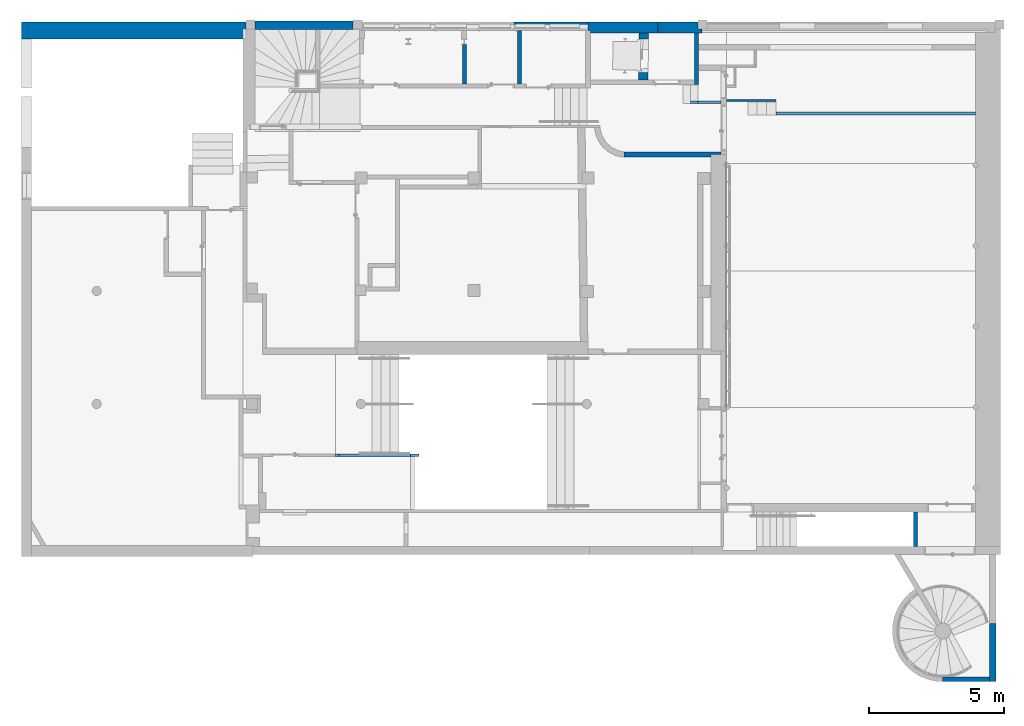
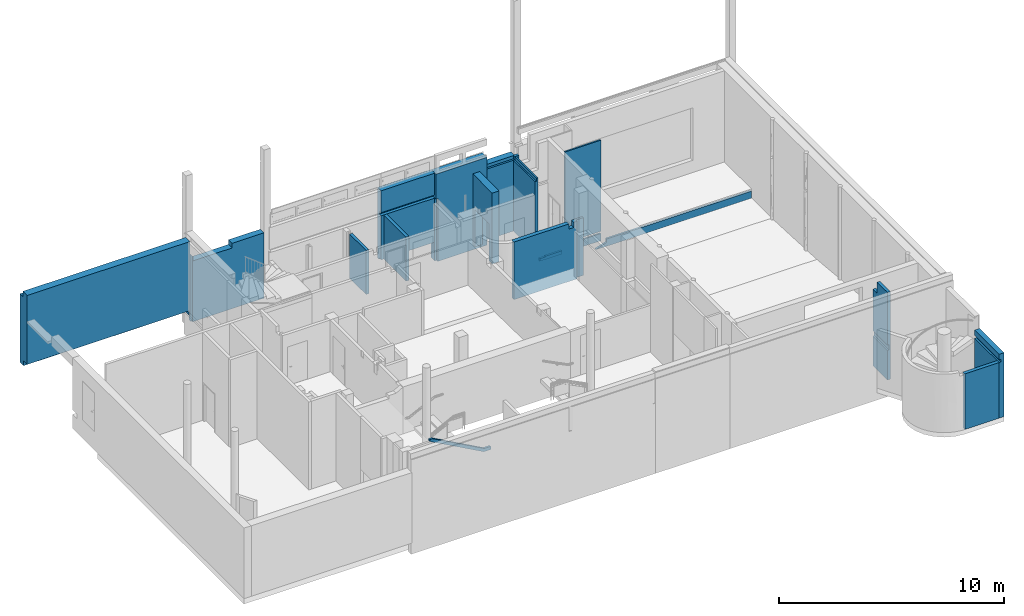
# One storey, part 7 of 39: 16 walls, 1 stair, 4 openings.
"""IFC4 building model written with IfcOpenShell, lengths in metres."""

import ifcopenshell
import ifcopenshell.guid

model = None  # the IFC model being written
_history = None  # IfcOwnerHistory: only IFC2X3 demands one
_inside = {}  # id of a spatial element -> (the spatial element, [elements in it])
_under = {}  # id of a project, library or spatial element -> (it, [spatial elements below it])
_declared = {}  # id of a project -> (the project, [libraries it declares])
_typed = {}  # id of a type object -> (the type object, [elements of that type])
_made_of = {}  # id of a material, layer set ... -> (it, [elements and type objects made of it])


def new_model(schema):
    """Start an empty IFC model of exactly this schema.

    Asked for "IFC4X3", IfcOpenShell would pick the latest addendum, in which some entities
    have other attributes; the version numbers below select the first issue.
    IFC2X3 requires an IfcOwnerHistory on every rooted entity: one is made here for all.
    """
    global model, _history
    if schema == "IFC4X3":
        model = ifcopenshell.file(schema_version=(4, 3, 0, 0))
    else:
        model = ifcopenshell.file(schema=schema)
    _inside.clear()
    _under.clear()
    _declared.clear()
    _typed.clear()
    _made_of.clear()
    _history = None
    if model.schema == "IFC2X3":
        org = make("IfcOrganization", Name="unknown")
        user = make(
            "IfcPersonAndOrganization",
            ThePerson=make("IfcPerson", FamilyName="unknown"),
            TheOrganization=org,
        )
        app = make(
            "IfcApplication",
            ApplicationDeveloper=org,
            Version="unknown",
            ApplicationFullName="unknown",
            ApplicationIdentifier="unknown",
        )
        _history = make(
            "IfcOwnerHistory",
            OwningUser=user,
            OwningApplication=app,
            ChangeAction="ADDED",
            CreationDate=0,
        )
    return model


def make(cls, **values):
    """One entity of the class cls with the attributes given. An attribute that is None is left unset."""
    return model.create_entity(
        cls, **{name: value for name, value in values.items() if value is not None}
    )


def entity(cls, *values):
    """Any entity or typed value of the class cls, its attributes in the order of the schema. None: left unset."""
    e = model.create_entity(cls)
    for i, value in enumerate(values):
        if value is not None:
            e[i] = value
    return e


def rooted(cls, **values):
    """An entity with a GlobalId (a new one), such as an element, a storey or a relation."""
    return make(cls, GlobalId=ifcopenshell.guid.new(), OwnerHistory=_history, **values)


def si_unit(unit_type, name, prefix=None):
    """IfcSIUnit, for example si_unit("LENGTHUNIT", "METRE", prefix="MILLI")."""
    return make("IfcSIUnit", UnitType=unit_type, Prefix=prefix, Name=name)


def converted_unit(unit_type, name, factor, base, dimensions=None, offset=None):
    """IfcConversionBasedUnit, such as the inch: factor (a typed value) times the base unit."""
    return make(
        "IfcConversionBasedUnit"
        if offset is None
        else "IfcConversionBasedUnitWithOffset",
        ConversionOffset=offset,
        Dimensions=None
        if dimensions is None
        else entity("IfcDimensionalExponents", *dimensions),
        UnitType=unit_type,
        Name=name,
        ConversionFactor=make(
            "IfcMeasureWithUnit", ValueComponent=factor, UnitComponent=base
        ),
    )


def derived_unit(unit_type, elements):
    """IfcDerivedUnit: a product of units, each with its exponent."""
    return make(
        "IfcDerivedUnit",
        Elements=[
            make("IfcDerivedUnitElement", Unit=unit, Exponent=power)
            for unit, power in elements
        ],
        UnitType=unit_type,
    )


def assignment(units):
    """IfcUnitAssignment: the units of a project."""
    return None if units is None else make("IfcUnitAssignment", Units=units)


def point(xyz):
    """IfcCartesianPoint."""
    return None if xyz is None else make("IfcCartesianPoint", Coordinates=xyz)


def direction(xyz):
    """IfcDirection."""
    return None if xyz is None else make("IfcDirection", DirectionRatios=xyz)


def frame(location, z_axis=None, x_axis=None):
    """IfcAxis2Placement3D, a coordinate frame: its origin and axes. An axis left out is left unset."""
    return make(
        "IfcAxis2Placement3D",
        Location=point(location),
        Axis=direction(z_axis),
        RefDirection=direction(x_axis),
    )


def origin():
    """The frame at (0, 0, 0) with its axes left unset."""
    return frame((0.0, 0.0, 0.0))


def place(relative_to, where):
    """IfcLocalPlacement: puts the frame where relative to a parent placement (None: the world)."""
    return make(
        "IfcLocalPlacement", PlacementRelTo=relative_to, RelativePlacement=where
    )


def context(
    kind, dimensions, precision=None, world=None, true_north=None, identifier=None
):
    """IfcGeometricRepresentationContext, for example the 3D "Model" context."""
    return make(
        "IfcGeometricRepresentationContext",
        ContextIdentifier=identifier,
        ContextType=kind,
        CoordinateSpaceDimension=dimensions,
        Precision=precision,
        WorldCoordinateSystem=world,
        TrueNorth=true_north,
    )


def subcontext(parent, identifier, kind, view, scale=None):
    """IfcGeometricRepresentationSubContext, for example "Body" below "Model"."""
    return make(
        "IfcGeometricRepresentationSubContext",
        ContextIdentifier=identifier,
        ContextType=kind,
        ParentContext=parent,
        TargetScale=scale,
        TargetView=view,
    )


def project(units=None, contexts=None):
    """IfcProject with its units and contexts."""
    return rooted(
        "IfcProject",
        Name="project",
        RepresentationContexts=contexts,
        UnitsInContext=assignment(units),
    )


def spatial(cls, under=None, at=None, **own):
    """A site, building, storey or space (cls), placed at a placement, below another one or the project."""
    s = rooted(cls, ObjectPlacement=at, **own)
    if under is not None:
        _under.setdefault(under.id(), (under, []))[1].append(s)
    return s


def point_list(points):
    """IfcCartesianPointList2D or 3D."""
    cls = (
        "IfcCartesianPointList2D" if len(points[0]) == 2 else "IfcCartesianPointList3D"
    )
    return make(cls, CoordList=points)


def indexed_curve(points, segments=None, self_intersect=None):
    """IfcIndexedPolyCurve: lines and arcs through numbered points (the first is 1)."""
    return make(
        "IfcIndexedPolyCurve",
        Points=point_list(points),
        Segments=segments,
        SelfIntersect=self_intersect,
    )


def outline(outer, holes=None, kind="AREA"):
    """IfcArbitraryClosedProfileDef: a profile drawn as a closed curve; with holes, ...WithVoids."""
    if holes is None:
        return make("IfcArbitraryClosedProfileDef", ProfileType=kind, OuterCurve=outer)
    return make(
        "IfcArbitraryProfileDefWithVoids",
        ProfileType=kind,
        OuterCurve=outer,
        InnerCurves=holes,
    )


def extrude(swept, where, along, depth):
    """IfcExtrudedAreaSolid: the profile swept, set in the frame where, extruded along a direction by depth."""
    return make(
        "IfcExtrudedAreaSolid",
        SweptArea=swept,
        Position=where,
        ExtrudedDirection=direction(along),
        Depth=depth,
    )


def polygons(points, faces, closed=None, point_numbers=None):
    """IfcPolygonalFaceSet: a face is its outer loop, then its inner loops; points numbered from 1."""
    made = []
    for loops in faces:
        if len(loops) == 1:
            made.append(make("IfcIndexedPolygonalFace", CoordIndex=loops[0]))
        else:
            made.append(
                make(
                    "IfcIndexedPolygonalFaceWithVoids",
                    CoordIndex=loops[0],
                    InnerCoordIndices=loops[1:],
                )
            )
    return make(
        "IfcPolygonalFaceSet",
        Coordinates=point_list(points),
        Closed=closed,
        Faces=made,
        PnIndex=point_numbers,
    )


def shape(context_of_items, identifier, shape_type, items):
    """IfcShapeRepresentation: the items that make up one representation, for example the "Body"."""
    return make(
        "IfcShapeRepresentation",
        ContextOfItems=context_of_items,
        RepresentationIdentifier=identifier,
        RepresentationType=shape_type,
        Items=items,
    )


def material(Name=None, Category=None):
    """IfcMaterial."""
    return make("IfcMaterial", Name=Name, Category=Category)


def layer(
    of_material, thickness, ventilated=None, Name=None, Category=None, Priority=None
):
    """IfcMaterialLayer: one layer of a wall or slab, of a material (None: an air gap)."""
    return make(
        "IfcMaterialLayer",
        Material=of_material,
        LayerThickness=thickness,
        IsVentilated=ventilated,
        Name=Name,
        Category=Category,
        Priority=Priority,
    )


def layer_set(layers, Name=None):
    """IfcMaterialLayerSet."""
    return make("IfcMaterialLayerSet", MaterialLayers=layers, LayerSetName=Name)


def made_of(thing, what):
    """Note that an element or type object is made of a material, layer set ...; save() writes the relation."""
    if what is not None:
        _made_of.setdefault(what.id(), (what, []))[1].append(thing)
    return thing


def type_object(cls, material=None, **own):
    """A type object (cls), such as IfcWallType, which elements share."""
    return made_of(rooted(cls, **own), material)


def element(
    cls,
    number,
    at=None,
    inside=None,
    cuts=None,
    type_object=None,
    material=None,
    context=None,
    identifier="Body",
    shape_type=None,
    held_by="IfcProductDefinitionShape",
    body=None,
    shapes=None,
    **own,
):
    """One element of the class cls, such as IfcWall. Its Tag is "e" and its number.

    at: its placement. inside: the storey or other place that contains it. cuts: it is an
    opening in that element (IfcRelVoidsElement). A single representation is given by context,
    identifier, shape_type and body (its items); several are given by shapes. held_by: the class
    of the entity that holds the representations. save() writes the other relations.
    """
    e = rooted(cls, Tag="e%d" % number, ObjectPlacement=at, **own)
    if body is not None:
        shapes = [shape(context, identifier, shape_type, body)]
    if shapes is not None:
        e.Representation = make(held_by, Representations=shapes)
    if inside is not None:
        _inside.setdefault(inside.id(), (inside, []))[1].append(e)
    if cuts is not None:
        rooted(
            "IfcRelVoidsElement", RelatingBuildingElement=cuts, RelatedOpeningElement=e
        )
    if type_object is not None:
        _typed.setdefault(type_object.id(), (type_object, []))[1].append(e)
    return made_of(e, material)


def aggregate(whole, parts):
    """IfcRelAggregates: a whole, such as a stair, and the parts it consists of."""
    return rooted("IfcRelAggregates", RelatingObject=whole, RelatedObjects=parts)


def save(model, path):
    """Write the relations noted so far, then the file.

    IfcRelAggregates (storeys below a building ...), IfcRelContainedInSpatialStructure (elements
    in a storey), IfcRelDefinesByType, IfcRelAssociatesMaterial and IfcRelDeclares: one each for
    every whole, place, type object, material and project.
    """
    for whole, parts in _under.values():
        aggregate(whole, parts)
    for where, things in _inside.values():
        rooted(
            "IfcRelContainedInSpatialStructure",
            RelatedElements=things,
            RelatingStructure=where,
        )
    for kind, things in _typed.values():
        rooted("IfcRelDefinesByType", RelatedObjects=things, RelatingType=kind)
    for what, things in _made_of.values():
        rooted("IfcRelAssociatesMaterial", RelatedObjects=things, RelatingMaterial=what)
    for by, libraries in _declared.values():
        rooted("IfcRelDeclares", RelatingContext=by, RelatedDefinitions=libraries)
    model.write(path)


model = new_model("IFC4")

# Units and contexts
model_context = context("Model", 3, precision=1e-05, world=origin(), true_north=direction((6.12303176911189e-17, 1.0)))
body_context = subcontext(model_context, "Body", "Model", "MODEL_VIEW")
ifc_project = project(units=[si_unit("LENGTHUNIT", "METRE"), si_unit("AREAUNIT", "SQUARE_METRE"), si_unit("VOLUMEUNIT", "CUBIC_METRE"), converted_unit("PLANEANGLEUNIT", "DEGREE", entity("IfcRatioMeasure", 0.0174532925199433), si_unit("PLANEANGLEUNIT", "RADIAN"), dimensions=[0, 0, 0, 0, 0, 0, 0]), si_unit("MASSUNIT", "GRAM", prefix="KILO"), derived_unit("MASSDENSITYUNIT", [(si_unit("MASSUNIT", "GRAM", prefix="KILO"), 1), (si_unit("LENGTHUNIT", "METRE"), -3)]), derived_unit("MOMENTOFINERTIAUNIT", [(si_unit("LENGTHUNIT", "METRE"), 4)]), si_unit("TIMEUNIT", "SECOND"), si_unit("FREQUENCYUNIT", "HERTZ"), si_unit("THERMODYNAMICTEMPERATUREUNIT", "DEGREE_CELSIUS"), derived_unit("THERMALTRANSMITTANCEUNIT", [(si_unit("MASSUNIT", "GRAM", prefix="KILO"), 1), (si_unit("THERMODYNAMICTEMPERATUREUNIT", "KELVIN"), -1), (si_unit("TIMEUNIT", "SECOND"), -3)]), derived_unit("VOLUMETRICFLOWRATEUNIT", [(si_unit("LENGTHUNIT", "METRE"), 3), (si_unit("TIMEUNIT", "SECOND"), -1)]), si_unit("ELECTRICCURRENTUNIT", "AMPERE"), si_unit("ELECTRICVOLTAGEUNIT", "VOLT"), si_unit("POWERUNIT", "WATT"), si_unit("FORCEUNIT", "NEWTON", prefix="KILO"), si_unit("ILLUMINANCEUNIT", "LUX"), si_unit("LUMINOUSFLUXUNIT", "LUMEN"), si_unit("LUMINOUSINTENSITYUNIT", "CANDELA"), derived_unit("USERDEFINED", [(si_unit("MASSUNIT", "GRAM", prefix="KILO"), -1), (si_unit("LENGTHUNIT", "METRE"), -2), (si_unit("TIMEUNIT", "SECOND"), 3), (si_unit("LUMINOUSFLUXUNIT", "LUMEN"), 1)]), derived_unit("LINEARVELOCITYUNIT", [(si_unit("LENGTHUNIT", "METRE"), 1), (si_unit("TIMEUNIT", "SECOND"), -1)]), si_unit("PRESSUREUNIT", "PASCAL"), derived_unit("USERDEFINED", [(si_unit("LENGTHUNIT", "METRE"), -2), (si_unit("MASSUNIT", "GRAM", prefix="KILO"), 1), (si_unit("TIMEUNIT", "SECOND"), -2)]), derived_unit("LINEARFORCEUNIT", [(si_unit("MASSUNIT", "GRAM", prefix="KILO"), 1), (si_unit("LENGTHUNIT", "METRE"), 1), (si_unit("TIMEUNIT", "SECOND"), -2), (si_unit("LENGTHUNIT", "METRE"), -1)]), derived_unit("PLANARFORCEUNIT", [(si_unit("MASSUNIT", "GRAM", prefix="KILO"), 1), (si_unit("LENGTHUNIT", "METRE"), 1), (si_unit("TIMEUNIT", "SECOND"), -2), (si_unit("LENGTHUNIT", "METRE"), -2)])], contexts=[model_context])

# Site, building, storey
site_placement = place(None, origin())
site = spatial("IfcSite", under=ifc_project, at=site_placement, Name="Default", CompositionType="ELEMENT")
building_placement = place(site_placement, origin())
building = spatial("IfcBuilding", under=site, at=building_placement, Name="HOTEL CONSULAIRE BOULOGNE SUR MER", CompositionType="ELEMENT")
storey_placement = place(building_placement, frame((0.0, 0.0, -5.02343668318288)))
storey = spatial("IfcBuildingStorey", under=building, at=storey_placement, Name="SS3", CompositionType="ELEMENT", Elevation=-5.02343668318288)

# Wall, opening
ifc_material_1 = material(Name="Mur par défaut", Category="Divers")
ifc_layer_1 = layer(ifc_material_1, 0.1, Name="Mur par défaut", Category="Divers")
ifc_layer_set_1 = layer_set([ifc_layer_1], Name="Mur de base:Générique - Int. 100 mm")
wall_type_1 = type_object("IfcWallType", Name="Mur de base:Générique - Int. 100 mm", PredefinedType="NOTDEFINED", material=ifc_layer_set_1)
wall_1_placement = place(storey_placement, frame((12.1592268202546, -12.8002768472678, -0.649999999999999), z_axis=(0.0, 0.0, 1.0), x_axis=(-1.0, 0.0, 0.0)))
wall_1 = element("IfcWall", 1, at=wall_1_placement, inside=storey, type_object=wall_type_1, material=ifc_layer_set_1, Name="Mur de base:Générique - Int. 100 mm", ObjectType="Mur de base:Générique - Int. 100 mm", PredefinedType="NOTDEFINED", context=body_context, shape_type="Tessellation", body=[
    polygons([(5.35888846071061e-17, -0.0500000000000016, 0.0), (1.13488343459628, -0.0499999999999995, 0.0), (1.13488343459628, -0.0499999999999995, 0.143333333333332), (0.855583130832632, -0.0499999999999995, 0.143333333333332), (0.855583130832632, -0.0499999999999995, 0.178999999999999), (5.35888846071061e-17, -0.0500000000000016, 0.178999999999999), (-4.72550068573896e-16, 0.0499999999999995, 0.0), (-4.72550068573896e-16, 0.0499999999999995, 0.178999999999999), (0.855583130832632, 0.0500000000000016, 0.178999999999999), (0.855583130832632, 0.0500000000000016, 0.143333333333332), (1.13488343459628, 0.0500000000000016, 0.143333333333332), (1.13488343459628, 0.0500000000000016, 0.0)], [[[6, 1, 2, 3, 4, 5]], [[10, 11, 12, 7, 8, 9]], [[7, 1, 6, 8]], [[2, 1, 7, 12]], [[3, 2, 12, 11]], [[5, 4, 10, 9]], [[6, 5, 9, 8]], [[4, 3, 11, 10]]], closed=True),
])
opening_1_placement = place(wall_1_placement, origin())
element("IfcOpeningElement", 2, at=opening_1_placement, cuts=wall_1, Name="Mur de base:Générique - Int. 100 mm", ObjectType="Opening", PredefinedType="OPENING", context=body_context, shape_type="SweptSolid", body=[
    extrude(outline(indexed_curve([(-0.0178333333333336, -0.139650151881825), (0.0178333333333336, -0.139650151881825), (0.0178333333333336, 0.139650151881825), (-0.0178333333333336, 0.139650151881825), (-0.0178333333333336, -0.139650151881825)], self_intersect=False)), frame((0.995233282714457, 0.0500000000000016, 0.161166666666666), z_axis=(0.0, -1.0, 0.0), x_axis=(0.0, 0.0, 1.0)), (0.0, 0.0, 1.0), 0.1),
])

wall_2_placement = place(storey_placement, frame((13.6626382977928, -13.2203682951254, -0.69091907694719)))
wall_2 = element("IfcWall", 3, at=wall_2_placement, inside=storey, type_object=wall_type_1, material=ifc_layer_set_1, Name="Mur de base:Générique - Int. 100 mm", ObjectType="Mur de base:Générique - Int. 100 mm", PredefinedType="NOTDEFINED", context=body_context, shape_type="Tessellation", body=[
    polygons([(7.95742217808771, -0.0499999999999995, 0.390919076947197), (0.538691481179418, -0.0499999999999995, 0.390919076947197), (0.538691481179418, -0.0499999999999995, 0.208487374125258), (1.54855795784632e-16, -0.0499999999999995, 0.0216797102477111), (1.54855795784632e-16, -0.0499999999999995, 0.0199999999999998), (1.54855795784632e-16, -0.0499999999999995, 0.0), (7.95742217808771, -0.0499999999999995, 0.0), (7.95742217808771, -0.0499999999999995, 0.0199999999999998), (0.538691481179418, 0.0499999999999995, 0.390919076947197), (7.95742217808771, 0.0499999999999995, 0.390919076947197), (7.95742217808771, 0.0499999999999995, 0.0), (-2.05352816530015e-16, 0.0499999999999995, 0.0), (-2.05352816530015e-16, 0.0499999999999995, 0.0216797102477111), (0.538691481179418, 0.0499999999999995, 0.208487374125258)], [[[3, 4, 5, 6, 7, 8, 1, 2]], [[10, 11, 12, 13, 14, 9]], [[8, 7, 11, 10, 1]], [[2, 1, 10, 9]], [[5, 4, 13, 12, 6]], [[3, 2, 9, 14]], [[4, 3, 14, 13]], [[7, 6, 12, 11]]], closed=True),
])
opening_2_placement = place(wall_2_placement, origin())
element("IfcOpeningElement", 4, at=opening_2_placement, cuts=wall_2, Name="Mur de base:Générique - Int. 100 mm", ObjectType="Opening", PredefinedType="OPENING", context=body_context, shape_type="SweptSolid", body=[
    extrude(outline(indexed_curve([(-0.269345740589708, -0.137917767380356), (0.26934574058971, -0.137917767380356), (0.26934574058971, 0.23132159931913), (-0.269345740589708, 0.0445139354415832), (-0.269345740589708, -0.137917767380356)], self_intersect=False)), frame((0.26934574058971, 0.0499999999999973, 0.253001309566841), z_axis=(0.0, -1.0, 0.0), x_axis=(-1.0, 0.0, 0.0)), (0.0, 0.0, 1.0), 0.1),
])

# Walls
ifc_layer_2 = layer(ifc_material_1, 0.15, Name="Mur par défaut", Category="Divers")
ifc_layer_set_2 = layer_set([ifc_layer_2], Name="Mur de base:Générique - Int. 150 mm")
wall_type_2 = type_object("IfcWallType", Name="Mur de base:Générique - Int. 150 mm", PredefinedType="NOTDEFINED", material=ifc_layer_set_2)
wall_3_placement = place(storey_placement, frame((2.62217677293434, -12.1214663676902, 0.0800000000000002), z_axis=(0.0, 0.0, 1.0), x_axis=(0.0, 1.0, 0.0)))
element("IfcWall", 5, at=wall_3_placement, inside=storey, type_object=wall_type_2, material=ifc_layer_set_2, Name="Mur de base:Générique - Int. 150 mm", ObjectType="Mur de base:Générique - Int. 150 mm", PredefinedType="NOTDEFINED", context=body_context, shape_type="Tessellation", body=[
    polygons([(0.0, -0.0750000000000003, 0.0), (1.47314220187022, -0.0750000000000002, 0.0), (1.47314220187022, -0.0750000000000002, 2.38399047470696), (0.0, -0.0750000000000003, 2.38399047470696), (1.47314220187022, 0.0749999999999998, 0.0), (0.0, 0.0749999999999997, 0.0), (0.0, 0.0749999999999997, 2.38399047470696), (1.47314220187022, 0.0749999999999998, 2.38399047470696)], [[[4, 1, 2, 3]], [[8, 5, 6, 7]], [[2, 1, 6, 5]], [[3, 2, 5, 8]], [[6, 1, 4, 7]], [[4, 3, 8, 7]]], closed=True),
])
wall_4_placement = place(storey_placement, frame((4.67705497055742, -12.1214663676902, 0.0800000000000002), z_axis=(0.0, 0.0, 1.0), x_axis=(0.0, 1.0, 0.0)))
element("IfcWall", 6, at=wall_4_placement, inside=storey, type_object=wall_type_2, material=ifc_layer_set_2, Name="Mur de base:Générique - Int. 150 mm", ObjectType="Mur de base:Générique - Int. 150 mm", PredefinedType="NOTDEFINED", context=body_context, shape_type="Tessellation", body=[
    polygons([(0.0, -0.0750000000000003, 0.0), (1.98714220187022, -0.0750000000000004, 0.0), (1.98714220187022, -0.0750000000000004, 2.38399047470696), (0.0, -0.0750000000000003, 2.38399047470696), (1.98714220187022, 0.0749999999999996, 0.0), (0.0, 0.0749999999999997, 0.0), (0.0, 0.0749999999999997, 2.38399047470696), (1.98714220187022, 0.0749999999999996, 2.38399047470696)], [[[4, 1, 2, 3]], [[8, 5, 6, 7]], [[2, 1, 6, 5]], [[6, 1, 4, 7]], [[3, 2, 5, 8]], [[4, 3, 8, 7]]], closed=True),
])
wall_5_placement = place(storey_placement, frame((11.250643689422, -12.1507913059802, -0.649999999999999), z_axis=(0.0, 0.0, 1.0), x_axis=(0.0, 1.0, 0.0)))
element("IfcWall", 7, at=wall_5_placement, inside=storey, type_object=wall_type_2, material=ifc_layer_set_2, Name="Mur de base:Générique - Int. 150 mm", ObjectType="Mur de base:Générique - Int. 150 mm", PredefinedType="NOTDEFINED", context=body_context, shape_type="Tessellation", body=[
    polygons([(0.0, -0.0750000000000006, 0.0), (1.91646714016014, -0.0750000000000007, 0.0), (1.91646714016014, -0.0750000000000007, 4.00183690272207), (1.50247811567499, -0.0750000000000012, 4.00183690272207), (1.28247811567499, -0.0750000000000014, 4.00183690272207), (2.16573425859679e-15, -0.0750000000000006, 4.00183690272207), (1.91646714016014, 0.0749999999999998, 0.0), (0.18, 0.0750000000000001, 0.0), (0.0, 0.0749999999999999, 0.0), (2.16573425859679e-15, 0.0749999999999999, 3.11399047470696), (2.16573425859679e-15, 0.0749999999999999, 3.28399047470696), (2.16573425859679e-15, 0.0749999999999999, 3.83183690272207), (0.180000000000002, 0.0750000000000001, 3.83183690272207), (1.91646714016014, 0.0749999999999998, 3.83183690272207), (1.91646714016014, 1.7376889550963e-15, 4.00183690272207), (2.16573425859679e-15, -3.7023015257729e-16, 4.00183690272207), (1.91646714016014, -4.28045303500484e-16, 3.83183690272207), (2.16573425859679e-15, -3.7023015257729e-16, 3.83183690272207)], [[[6, 1, 2, 3, 4, 5]], [[14, 7, 8, 9, 10, 11, 12, 13]], [[16, 15, 17, 18]], [[2, 1, 9, 8, 7]], [[4, 3, 15, 16, 6, 5]], [[13, 12, 18, 17, 14]], [[14, 17, 15, 3, 2, 7]], [[10, 9, 1, 6, 16, 18, 12, 11]]], closed=True),
])
wall_6_placement = place(storey_placement, frame((19.391946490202, -28.0238231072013, 0.0), z_axis=(0.0, 0.0, 1.0), x_axis=(0.0, -1.0, 0.0)))
element("IfcWall", 8, at=wall_6_placement, inside=storey, type_object=wall_type_2, material=ifc_layer_set_2, Name="Mur de base:Générique - Int. 150 mm", ObjectType="Mur de base:Générique - Int. 150 mm", PredefinedType="NOTDEFINED", context=body_context, shape_type="Tessellation", body=[
    polygons([(1.29424399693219, -0.0750000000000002, 1.90122547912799), (1.29424399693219, -0.0750000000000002, 4.75343668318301), (0.379999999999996, -0.0749999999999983, 4.75343668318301), (0.379999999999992, -0.0749999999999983, 4.14343668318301), (0.0, -0.0749999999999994, 4.14343668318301), (0.0, -0.0749999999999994, 1.90122547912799), (0.0, -0.0749999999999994, 0.0), (1.29424399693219, -0.0750000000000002, 0.0), (1.29424399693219, -0.0750000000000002, 1.61122547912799), (0.0, -0.0749999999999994, 1.61122547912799), (1.29424399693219, 0.0750000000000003, 0.0), (0.0, 0.0750000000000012, 0.0), (0.0, 0.0750000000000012, 4.14343668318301), (0.379999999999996, 0.0750000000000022, 4.14343668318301), (0.379999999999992, 0.0750000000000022, 4.75343668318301), (1.29424399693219, 0.0750000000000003, 4.75343668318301), (0.0, -0.00488601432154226, 1.61122547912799), (0.0, -0.00488601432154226, 1.90122547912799), (1.29424399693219, -0.00488601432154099, 1.90122547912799), (1.29424399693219, -0.00488601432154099, 1.61122547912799)], [[[4, 5, 6, 1, 2, 3]], [[10, 7, 8, 9]], [[19, 18, 17, 20]], [[16, 11, 12, 13, 14, 15]], [[8, 7, 12, 11]], [[6, 18, 19, 1]], [[3, 2, 16, 15]], [[20, 17, 10, 9]], [[4, 14, 13, 5]], [[18, 6, 5, 13, 12, 7, 10, 17]], [[3, 15, 14, 4]], [[19, 20, 9, 8, 11, 16, 2, 1]]], closed=True),
])

# Wall, opening
ifc_layer_3 = layer(ifc_material_1, 0.36, Name="Mur par défaut", Category="Divers")
ifc_layer_set_3 = layer_set([ifc_layer_3], Name="Mur de base:Générique - Int. 360")
wall_type_3 = type_object("IfcWallType", Name="Mur de base:Générique - Int. 360", PredefinedType="NOTDEFINED", material=ifc_layer_set_3)
wall_7_placement = place(storey_placement, frame((9.26793079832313, -11.9725234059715, -0.649999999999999), z_axis=(0.0, 0.0, 1.0), x_axis=(0.00962277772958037, 0.999953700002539, 0.0)))
wall_7 = element("IfcWall", 9, at=wall_7_placement, inside=storey, type_object=wall_type_3, material=ifc_layer_set_3, Name="Mur de base:Générique - Int. 360", ObjectType="Mur de base:Générique - Int. 360", PredefinedType="NOTDEFINED", context=body_context, shape_type="Tessellation", body=[
    polygons([(1.74001190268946, -0.180000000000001, 0.0), (1.52455048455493, -0.18, 0.0), (1.52455048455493, 0.180000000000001, 0.0), (1.73654754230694, 0.18, 0.0), (1.74001190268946, -0.180000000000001, 3.83183690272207), (0.00346436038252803, -0.179999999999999, 3.83183690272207), (0.00346436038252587, -0.179999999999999, 0.0), (0.269543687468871, -0.18, 0.0), (0.269543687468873, -0.18, 2.0), (1.52455048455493, -0.179999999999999, 2.0), (1.52455048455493, 0.180000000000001, 2.0), (0.269543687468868, 0.18, 2.0), (0.269543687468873, 0.18, 0.0), (0.0, 0.18, 0.0), (0.0, 0.18, 3.83183690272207), (1.73654754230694, 0.18, 3.83183690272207)], [[[1, 2, 3, 4]], [[8, 7, 14, 13]], [[11, 10, 9, 12]], [[7, 8, 9, 10, 2, 1, 5, 6]], [[4, 3, 11, 12, 13, 14, 15, 16]], [[3, 2, 10, 11]], [[12, 9, 8, 13]], [[1, 4, 16, 5]], [[14, 7, 6, 15]], [[16, 15, 6, 5]]], closed=True),
])
opening_3_placement = place(wall_7_placement, frame((0.240214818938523, 1.70371776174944, 0.0)))
element("IfcOpeningElement", 10, at=opening_3_placement, cuts=wall_7, Name="Mur de base:Générique - Int. 360", ObjectType="Opening", PredefinedType="OPENING", context=body_context, shape_type="SweptSolid", body=[
    extrude(outline(indexed_curve([(-0.627503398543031, -1.0), (0.627503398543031, -1.0), (0.627503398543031, 1.0), (-0.627503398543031, 1.0), (-0.627503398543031, -1.0)], self_intersect=False)), frame((0.656832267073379, -3.04771776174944, 1.0), z_axis=(0.0, 1.0, 0.0), x_axis=(-1.0, 0.0, 0.0)), (0.0, 0.0, 1.0), 3.048),
])

# Walls
ifc_layer_4 = layer(ifc_material_1, 0.32, Name="Mur par défaut", Category="Divers")
ifc_layer_set_4 = layer_set([ifc_layer_4], Name="Mur de base:Générique - Ext.320 mm")
wall_type_4 = type_object("IfcWallType", Name="Mur de base:Générique - Ext.320 mm", PredefinedType="NOTDEFINED", material=ifc_layer_set_4)
wall_8_placement = place(storey_placement, frame((4.4625764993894, -9.97432416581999, 0.0)))
element("IfcWall", 11, at=wall_8_placement, inside=storey, type_object=wall_type_4, material=ifc_layer_set_4, Name="Mur de base:Générique - Ext.320 mm", ObjectType="Mur de base:Générique - Ext.320 mm", PredefinedType="NOTDEFINED", context=body_context, shape_type="Tessellation", body=[
    polygons([(2.74640376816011, -0.16, 3.81699999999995), (2.77251668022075e-15, -0.16, 3.81699999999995), (6.06782421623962e-16, -0.16, 2.63399047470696), (2.74640376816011, -0.16, 2.63399047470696), (2.77251668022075e-15, -0.16, 0.0800000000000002), (0.13947847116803, -0.160000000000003, 0.0800000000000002), (0.289478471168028, -0.16, 0.0800000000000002), (2.74640376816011, -0.16, 0.0800000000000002), (2.74640376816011, -0.16, 2.46399047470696), (6.06782421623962e-16, -0.16, 2.46399047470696), (2.74640376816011, 0.16, 0.0), (1.50533218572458e-15, 0.16, 0.0), (1.50533218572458e-15, 0.16, 3.81699999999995), (2.74640376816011, 0.16, 3.81699999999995), (2.74640376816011, 0.0339999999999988, 0.0), (2.00428608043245e-15, 0.0339999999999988, 0.0), (2.74640376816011, 0.0, 2.63399047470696), (2.74640376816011, 0.0, 2.46399047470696), (2.74640376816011, 0.0339999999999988, 0.0800000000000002), (2.00428608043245e-15, 0.0339999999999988, 0.0800000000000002), (2.13892443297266e-15, 0.0, 2.46399047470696), (2.13892443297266e-15, 0.0, 2.63399047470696)], [[[2, 3, 4, 1]], [[10, 5, 6, 7, 8, 9]], [[19, 20, 16, 15]], [[22, 21, 18, 17]], [[14, 11, 12, 13]], [[15, 16, 12, 11]], [[7, 6, 5, 20, 19, 8]], [[22, 17, 4, 3]], [[8, 19, 15, 11, 14, 1, 4, 17, 18, 9]], [[2, 1, 14, 13]], [[9, 18, 21, 10]], [[5, 10, 21, 22, 3, 2, 13, 12, 16, 20]]], closed=True),
])
wall_9_placement = place(storey_placement, frame((-5.16398066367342, -9.94032416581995, 0.0)))
element("IfcWall", 12, at=wall_9_placement, inside=storey, type_object=wall_type_4, material=ifc_layer_set_4, Name="Mur de base:Générique - Ext.320 mm", ObjectType="Mur de base:Générique - Ext.320 mm", PredefinedType="NOTDEFINED", context=body_context, shape_type="Tessellation", body=[
    polygons([(1.91212739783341e-15, 0.16, 3.61923690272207), (1.01357763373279e-15, -0.16, 3.61923690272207), (0.00420748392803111, -0.16, 3.61923690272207), (0.00420748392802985, 0.16, 3.61923690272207), (2.09644476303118e-15, -0.16, 0.0800000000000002), (2.25883869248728, -0.16, 0.0800000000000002), (2.40883869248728, -0.16, 0.0800000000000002), (3.653, -0.16, 0.0800000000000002), (3.653, -0.16, 3.61923690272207), (2.01925160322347, -0.16, 3.61923690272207), (2.01925160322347, -0.16, 3.36923690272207), (0.00420748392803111, -0.16, 3.36923690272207), (3.653, 0.16, 0.0), (1.91212739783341e-15, 0.16, 0.0), (0.00420748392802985, 0.16, 3.36923690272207), (2.01925160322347, 0.16, 3.36923690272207), (2.01925160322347, 0.16, 3.61923690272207), (3.653, 0.16, 3.61923690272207), (3.653, 0.0, 0.0), (2.54571964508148e-15, 2.16573425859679e-15, 0.0), (3.653, 0.0, 0.0800000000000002), (1.4628525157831e-15, 0.0, 0.0800000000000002)], [[[2, 3, 4, 1]], [[10, 9, 18, 17]], [[12, 11, 16, 15]], [[5, 6, 7, 8, 9, 10, 11, 12, 3, 2]], [[21, 22, 20, 19]], [[13, 14, 1, 4, 15, 16, 17, 18]], [[19, 20, 14, 13]], [[7, 6, 5, 22, 21, 8]], [[9, 8, 21, 19, 13, 18]], [[4, 3, 12, 15]], [[2, 1, 14, 20, 22, 5]], [[10, 17, 16, 11]]], closed=True),
])

# Wall, opening
ifc_layer_5 = layer(ifc_material_1, 0.08, Name="Mur par défaut", Category="Divers")
ifc_layer_set_5 = layer_set([ifc_layer_5], Name="Mur de base:Générique - Int. 80")
wall_type_5 = type_object("IfcWallType", Name="Mur de base:Générique - Int. 80", PredefinedType="NOTDEFINED", material=ifc_layer_set_5)
wall_10_placement = place(storey_placement, frame((14.2013297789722, -12.7305329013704, -0.69091907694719), z_axis=(0.0, 0.0, 1.0), x_axis=(-1.0, 0.0, 0.0)))
wall_10 = element("IfcWall", 13, at=wall_10_placement, inside=storey, type_object=wall_type_5, material=ifc_layer_set_5, Name="Mur de base:Générique - Int. 80", ObjectType="Mur de base:Générique - Int. 80", PredefinedType="NOTDEFINED", context=body_context, shape_type="Tessellation", body=[
    polygons([(1.84210295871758, -0.0399999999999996, 0.390919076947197), (0.0, -0.0399999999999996, 0.390919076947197), (0.0, -0.0399999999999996, 0.0), (1.84210295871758, -0.0399999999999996, 0.0), (0.0, 0.0399999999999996, 0.390919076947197), (1.84210295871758, 0.0399999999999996, 0.390919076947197), (1.84210295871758, 0.0399999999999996, 0.0), (0.0, 0.0399999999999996, 0.0)], [[[2, 3, 4, 1]], [[6, 7, 8, 5]], [[3, 2, 5, 8]], [[4, 7, 6, 1]], [[2, 1, 6, 5]], [[3, 8, 7, 4]]], closed=True),
    polygons([(1.84210295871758, -0.0399999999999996, 5.4443557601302), (0.0, -0.0399999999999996, 5.4443557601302), (0.0, -0.0399999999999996, 0.510919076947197), (1.84210295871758, -0.0399999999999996, 0.510919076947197), (1.84210295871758, 0.0399999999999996, 5.4443557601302), (1.84210295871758, 0.0399999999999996, 0.510919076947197), (0.0, 0.0399999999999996, 5.4443557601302), (0.0, 0.0399999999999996, 0.510919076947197)], [[[2, 3, 4, 1]], [[4, 6, 5, 1]], [[5, 6, 8, 7]], [[3, 2, 7, 8]], [[2, 1, 5, 7]], [[8, 6, 4, 3]]], closed=True),
])
opening_4_placement = place(storey_placement, frame((14.2013297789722, -12.7305329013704, -0.69091907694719), z_axis=(0.0, 0.0, 1.0), x_axis=(-1.0, 0.0, 0.0)))
element("IfcOpeningElement", 14, at=opening_4_placement, cuts=wall_10, Name="Mur de base:Générique - Int. 80:1", ObjectType="Opening", PredefinedType="OPENING", context=body_context, shape_type="SweptSolid", body=[
    extrude(outline(indexed_curve([(-0.921051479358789, -0.0399999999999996), (0.921051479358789, -0.0399999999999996), (0.921051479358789, 0.0399999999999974), (-0.921051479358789, 0.0399999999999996), (-0.921051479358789, -0.0399999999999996)], self_intersect=False)), frame((0.921051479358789, 0.0, 0.390919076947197)), (0.0, 0.0, 1.0), 0.12),
])

# Walls
ifc_layer_6 = layer(ifc_material_1, 0.42, Name="Mur par défaut", Category="Divers")
ifc_layer_set_6 = layer_set([ifc_layer_6], Name="Mur de base:Générique - Ext.420")
wall_type_6 = type_object("IfcWallType", Name="Mur de base:Générique - Ext.420", PredefinedType="NOTDEFINED", material=ifc_layer_set_6)
wall_11_placement = place(storey_placement, frame((7.20898026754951, -10.02432416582, -0.939999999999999)))
element("IfcWall", 15, at=wall_11_placement, inside=storey, type_object=wall_type_6, material=ifc_layer_set_6, Name="Mur de base:Générique - Ext.420", ObjectType="Mur de base:Générique - Ext.420", PredefinedType="NOTDEFINED", context=body_context, shape_type="Tessellation", body=[
    polygons([(2.61644380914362, -0.21, 4.75699999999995), (-1.70439024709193e-15, -0.21, 4.75699999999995), (-1.70439024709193e-15, -0.21, 3.57399047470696), (-1.70439024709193e-15, -0.21, 3.40999999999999), (0.081457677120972, -0.21, 3.40999999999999), (0.100000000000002, -0.21, 3.40999999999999), (0.100000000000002, -0.21, 0.249999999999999), (0.100000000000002, -0.21, 0.0), (2.61644380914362, -0.21, 0.0), (2.61644380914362, -0.21, 0.289999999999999), (2.61644380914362, -0.21, 4.12183690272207), (2.61644380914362, -0.21, 4.29186120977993), (2.61644380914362, 0.21, 0.0), (-1.20183563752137e-15, 0.21, 0.0), (-1.20183563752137e-15, 0.21, 4.75699999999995), (2.61644380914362, 0.21, 4.75699999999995), (2.61644380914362, 0.21, 4.29186120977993), (2.61644380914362, 0.21, 0.289999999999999), (0.100000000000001, -0.110000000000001, 0.0), (-2.10038540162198e-15, -0.110000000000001, 0.0), (2.61644380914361, -0.109999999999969, 4.75699999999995), (-2.10038540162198e-15, -0.110000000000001, 3.40999999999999), (0.100000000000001, -0.110000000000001, 3.40999999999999), (0.100000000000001, -0.110000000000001, 1.02), (0.100000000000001, -0.110000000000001, 0.729999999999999), (0.0814576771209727, -0.110000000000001, 3.40999999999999)], [[[7, 8, 9, 10, 11, 12, 1, 2, 3, 4, 5, 6]], [[20, 19, 25, 24, 23, 26, 22]], [[18, 13, 14, 15, 16, 17]], [[19, 20, 14, 13, 9, 8]], [[5, 4, 22, 26, 23, 6]], [[2, 1, 21, 16, 15]], [[3, 2, 15, 14, 20, 22, 4]], [[19, 8, 7, 6, 23, 24, 25]], [[10, 9, 13, 18, 17, 16, 21, 1, 12, 11]]], closed=True),
])
wall_12_placement = place(storey_placement, frame((9.82542407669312, -10.02432416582, -0.650000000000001)))
element("IfcWall", 16, at=wall_12_placement, inside=storey, type_object=wall_type_6, material=ifc_layer_set_6, Name="Mur de base:Générique - Ext.420", ObjectType="Mur de base:Générique - Ext.420", PredefinedType="NOTDEFINED", context=body_context, shape_type="Tessellation", body=[
    polygons([(-9.82367734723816e-16, -0.21, 1.08286712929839e-15), (1.35021961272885, -0.210000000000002, 1.08286712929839e-15), (1.50021961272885, -0.21, 1.08286712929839e-15), (1.6355344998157, -0.21, 1.08286712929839e-15), (1.6355344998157, -0.21, 4.00186120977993), (1.50021961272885, -0.21, 4.00186120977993), (1.42521961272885, -0.210000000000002, 4.00186120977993), (1.42521961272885, -0.210000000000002, 3.83183690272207), (1.35021961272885, -0.210000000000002, 3.83183690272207), (-9.82367734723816e-16, -0.21, 3.83183690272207), (-5.53882857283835e-16, 0.21, 1.08286712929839e-15), (-5.53882857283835e-16, 0.21, 4.00186120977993), (1.48121422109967, 0.21, 4.00186120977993), (1.48121422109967, 0.21, 1.08286712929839e-15), (1.48121422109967, 2.16573425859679e-15, 1.08286712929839e-15), (1.48121422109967, -0.0603081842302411, 1.08286712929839e-15), (1.6355344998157, -0.0603081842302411, 1.08286712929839e-15), (1.6355344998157, -0.189693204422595, 1.08286712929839e-15), (1.6355344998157, -0.0603081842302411, 4.00186120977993), (-1.39599853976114e-15, -0.110000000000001, 4.00186120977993), (1.42521961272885, -0.110000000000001, 4.00186120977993), (1.48121422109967, -0.0603081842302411, 4.00186120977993), (-1.39599853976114e-15, -0.110000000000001, 3.83183690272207), (1.42521961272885, -0.110000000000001, 3.83183690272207)], [[[1, 2, 3, 4, 5, 6, 7, 8, 9, 10]], [[21, 20, 23, 24]], [[13, 14, 11, 12]], [[17, 16, 22, 19]], [[16, 17, 18, 4, 3, 2, 1, 11, 14, 15]], [[5, 4, 18, 17, 19]], [[15, 14, 13, 22, 16]], [[21, 7, 6, 5, 19, 22, 13, 12, 20]], [[9, 8, 24, 23, 10]], [[23, 20, 12, 11, 1, 10]], [[21, 24, 8, 7]]], closed=True),
])
ifc_layer_7 = layer(ifc_material_1, 0.63, Name="Mur par défaut", Category="Divers")
ifc_layer_set_7 = layer_set([ifc_layer_7], Name="Mur de base:Générique - Ext.630")
wall_type_7 = type_object("IfcWallType", Name="Mur de base:Générique - Ext.630", PredefinedType="NOTDEFINED", material=ifc_layer_set_7)
wall_13_placement = place(storey_placement, frame((-13.8453496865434, -10.1313241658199, 0.763405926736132)))
element("IfcWall", 17, at=wall_13_placement, inside=storey, type_object=wall_type_7, material=ifc_layer_set_7, Name="Mur de base:Générique - Ext.630", ObjectType="Mur de base:Générique - Ext.630", PredefinedType="NOTDEFINED", context=body_context, shape_type="Tessellation", body=[
    polygons([(8.34136902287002, -0.315, 0.0), (8.34136902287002, -0.315, 1.25659407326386), (8.34136902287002, -0.315, 1.77659407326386), (8.34136902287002, -0.315, 3.99003075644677), (8.24557650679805, -0.315, 3.99003075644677), (2.37138863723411, -0.315, 3.99003075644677), (2.30138863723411, -0.315, 3.99003075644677), (0.370000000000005, -0.315, 3.99003075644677), (0.250000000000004, -0.315, 3.99003075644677), (2.38372086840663e-15, -0.315, 3.99003075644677), (2.38372086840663e-15, -0.315, 3.06044262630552), (2.38372086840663e-15, -0.315, 2.59114570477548), (2.38372086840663e-15, -0.315, 2.46931211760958), (2.38372086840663e-15, -0.315, 0.25), (2.30138863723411, -0.315, 0.25), (2.37138863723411, -0.315, 0.25), (8.24557650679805, -0.315, 0.25), (8.30093771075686, -0.315, 0.25), (8.30093771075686, -0.315, 0.0), (8.34136902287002, 0.315, 0.0), (-1.11048605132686e-16, 0.315, 0.0), (-1.11048605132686e-16, 0.315, 3.70003075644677), (8.34136902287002, 0.315, 3.70003075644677), (8.34136902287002, 0.0466918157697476, 0.0), (8.30093771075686, -0.0100000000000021, 0.0), (1.17593564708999e-15, -0.0100000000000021, 0.0), (8.34136902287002, 0.0566918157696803, 3.70003075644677), (8.34136902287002, 0.0566918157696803, 3.99003075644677), (8.34136902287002, 0.0466918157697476, 3.99003075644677), (0.051369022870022, 0.0566918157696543, 3.99003075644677), (9.11839288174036e-16, 0.0566918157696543, 3.99003075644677), (3.34166990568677e-15, -0.0100000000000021, 0.25), (8.30093771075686, -0.0100000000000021, 0.25), (0.051369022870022, 0.0566918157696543, 3.70003075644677), (3.07757354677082e-15, 0.0566918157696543, 3.70003075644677)], [[[12, 13, 14, 15, 16, 17, 18, 19, 1, 2, 3, 4, 5, 6, 7, 8, 9, 10, 11]], [[32, 26, 25, 33]], [[23, 20, 21, 22]], [[30, 28, 27, 34, 35, 31]], [[25, 26, 21, 20, 24, 1, 19]], [[17, 16, 15, 14, 32, 33, 18]], [[1, 24, 20, 23, 27, 28, 29, 4, 3, 2]], [[5, 4, 29, 28, 30, 31, 10, 9, 8, 7, 6]], [[34, 27, 23, 22, 35]], [[33, 25, 19, 18]], [[22, 21, 26, 32, 14, 13, 12, 11, 10, 31, 35]]], closed=True),
])
ifc_layer_8 = layer(ifc_material_1, 0.2, Name="Mur par défaut", Category="Divers")
ifc_layer_set_8 = layer_set([ifc_layer_8], Name="Mur de base:Générique - Int.200")
wall_type_8 = type_object("IfcWallType", Name="Mur de base:Générique - Int.200", PredefinedType="NOTDEFINED", material=ifc_layer_set_8)
wall_14_placement = place(storey_placement, frame((12.1592268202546, -14.745051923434, -0.649999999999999), z_axis=(0.0, 0.0, 1.0), x_axis=(-1.0, 0.0, 0.0)))
element("IfcWall", 18, at=wall_14_placement, inside=storey, type_object=wall_type_8, material=ifc_layer_set_8, Name="Mur de base:Générique - Int.200", ObjectType="Mur de base:Générique - Int.200", PredefinedType="NOTDEFINED", context=body_context, shape_type="Tessellation", body=[
    polygons([(0.38, 0.100000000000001, 3.11999999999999), (0.38, 0.0, 3.11999999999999), (-6.39460398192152e-17, 0.0, 3.11999999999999), (2.74308679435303e-16, -0.0999999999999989, 3.11999999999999), (0.548788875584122, -0.0999999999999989, 3.11999999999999), (0.548788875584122, 0.100000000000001, 3.11999999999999), (2.74308679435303e-16, -0.0999999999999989, 0.0), (3.60476850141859, -0.0999999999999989, 0.0), (3.60476850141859, -0.0999999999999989, 3.11999999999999), (0.798788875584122, -0.100000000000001, 3.11999999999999), (0.798788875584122, -0.100000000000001, 2.83999999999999), (0.548788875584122, -0.0999999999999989, 2.83999999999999), (3.61370318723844, 0.100000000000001, 0.0), (0.38, 0.100000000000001, 0.0), (0.38, 0.100000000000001, 0.359999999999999), (0.38, 0.100000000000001, 0.649999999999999), (0.548788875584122, 0.100000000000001, 2.83999999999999), (0.798788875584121, 0.0999999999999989, 2.83999999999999), (0.798788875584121, 0.0999999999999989, 3.11999999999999), (3.61370318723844, 0.100000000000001, 3.11999999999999), (3.61370318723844, 0.100000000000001, 0.649999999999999), (3.61370318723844, 0.100000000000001, 0.359999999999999), (-6.39460398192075e-17, -2.16573425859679e-15, 0.0), (0.38, 0.0, 0.0), (0.38, 0.0, 3.11399047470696)], [[[4, 5, 6, 1, 2, 3]], [[10, 9, 20, 19]], [[17, 12, 11, 18]], [[7, 8, 9, 10, 11, 12, 5, 4]], [[21, 22, 13, 14, 15, 16, 1, 6, 17, 18, 19, 20]], [[25, 24, 23, 3, 2]], [[7, 23, 24, 14, 13, 8]], [[9, 8, 13, 22, 21, 20]], [[3, 23, 7, 4]], [[15, 14, 24, 25, 2, 1, 16]], [[18, 11, 10, 19]], [[6, 5, 12, 17]]], closed=True),
])
ifc_layer_9 = layer(ifc_material_1, 0.18, Name="Mur par défaut", Category="Divers")
ifc_layer_set_9 = layer_set([ifc_layer_9], Name="Mur de base:Générique - Ext.180")
wall_type_9 = type_object("IfcWallType", Name="Mur de base:Générique - Ext.180", PredefinedType="NOTDEFINED", material=ifc_layer_set_9)
wall_15_placement = place(storey_placement, frame((20.3831109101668, -34.2501408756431, 0.0)))
element("IfcWall", 19, at=wall_15_placement, inside=storey, type_object=wall_type_9, material=ifc_layer_set_9, Name="Mur de base:Générique - Ext.180", ObjectType="Mur de base:Générique - Ext.180", PredefinedType="NOTDEFINED", context=body_context, shape_type="Tessellation", body=[
    polygons([(-1.51035941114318e-15, -0.0899999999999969, 0.0), (1.75518688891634, -0.0899999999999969, 0.0), (1.75518688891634, -0.0899999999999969, 3.01190864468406), (-1.51035941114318e-15, -0.0899999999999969, 3.01190864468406), (1.75518688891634, 0.0900000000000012, 0.0), (0.00118688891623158, 0.0900000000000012, 0.0), (0.00118688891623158, 0.0900000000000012, 3.01190864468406), (1.75518688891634, 0.0900000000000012, 3.01190864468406)], [[[4, 1, 2, 3]], [[8, 5, 6, 7]], [[2, 1, 6, 5]], [[2, 5, 8, 3]], [[7, 6, 1, 4]], [[7, 4, 3, 8]]], closed=True),
])
ifc_layer_10 = layer(ifc_material_1, 0.25, Name="Mur par défaut", Category="Divers")
ifc_layer_set_10 = layer_set([ifc_layer_10], Name="Mur de base:Générique - Ext. 250 mm")
wall_type_10 = type_object("IfcWallType", Name="Mur de base:Générique - Ext. 250 mm", PredefinedType="NOTDEFINED", material=ifc_layer_set_10)
wall_16_placement = place(storey_placement, frame((22.2632977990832, -32.1678232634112, 0.0), z_axis=(0.0, 0.0, 1.0), x_axis=(0.0, -1.0, 0.0)))
element("IfcWall", 20, at=wall_16_placement, inside=storey, type_object=wall_type_10, material=ifc_layer_set_10, Name="Mur de base:Générique - Ext. 250 mm", ObjectType="Mur de base:Générique - Ext. 250 mm", PredefinedType="NOTDEFINED", context=body_context, shape_type="Tessellation", body=[
    polygons([(2.17231761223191, -0.124999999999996, 3.45794677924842), (0.0, -0.124999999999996, 3.45794677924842), (0.0, -0.124999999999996, 3.16190864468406), (2.17231761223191, -0.124999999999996, 3.16190864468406), (0.0, -0.124999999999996, 0.0), (1.99231761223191, -0.124999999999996, 0.0), (2.17231761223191, -0.124999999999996, 0.0), (2.17231761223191, -0.124999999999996, 3.01190864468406), (1.99231761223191, -0.124999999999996, 3.01190864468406), (0.0, -0.124999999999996, 3.01190864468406), (0.0, -0.124999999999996, 2.76190864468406), (2.17231761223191, 0.125000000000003, 0.0), (0.0, 0.125000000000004, 0.0), (0.0, 0.125000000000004, 3.45794677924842), (2.17231761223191, 0.125000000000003, 3.45794677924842), (0.0, 0.0605777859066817, 3.45794677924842), (0.0, -0.034999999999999, 3.01190864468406), (0.0, -0.034999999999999, 3.16190864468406), (2.17231761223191, -0.0349999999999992, 3.16190864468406), (2.17231761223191, -0.0349999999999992, 3.01190864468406)], [[[2, 3, 4, 1]], [[11, 5, 6, 7, 8, 9, 10]], [[18, 17, 20, 19]], [[15, 12, 13, 14]], [[6, 5, 13, 12, 7]], [[19, 4, 3, 18]], [[2, 1, 15, 14, 16]], [[9, 8, 20, 17, 10]], [[17, 18, 3, 2, 16, 14, 13, 5, 11, 10]], [[8, 7, 12, 15, 1, 4, 19, 20]]], closed=True),
])

# Stair
ifc_material_2 = material(Name="Béton - Béton coulé sur place", Category="Béton")
stair_type = type_object("IfcStairType", Name="limon 7:limon 7", PredefinedType="NOTDEFINED")
stair_placement = place(storey_placement, frame((-2.18319028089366, -25.9707560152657, 0.653405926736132)))
element("IfcStair", 21, at=stair_placement, inside=storey, type_object=stair_type, material=ifc_material_2, Name="limon 7:limon 7", ObjectType="limon 7:limon 7", PredefinedType="NOTDEFINED", context=body_context, shape_type="SweptSolid", body=[
    extrude(outline(indexed_curve([(-1.7974105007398, 0.0312088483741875), (-1.92705548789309, -0.0401786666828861), (-1.87798714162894, -0.129290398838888), (1.27579815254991, -0.129290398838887), (1.5926415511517, 0.0451757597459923), (1.51225370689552, 0.191166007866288), (1.2217597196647, 0.0312088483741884), (-1.7974105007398, 0.0312088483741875)], self_intersect=False)), frame((1.7074414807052, 0.0, 0.728634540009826), z_axis=(0.0, -1.0, 0.0), x_axis=(0.875979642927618, 0.0, -0.482348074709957)), (0.0, 0.0, -1.0), 0.0999999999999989),
])

save(model, "model.ifc")
